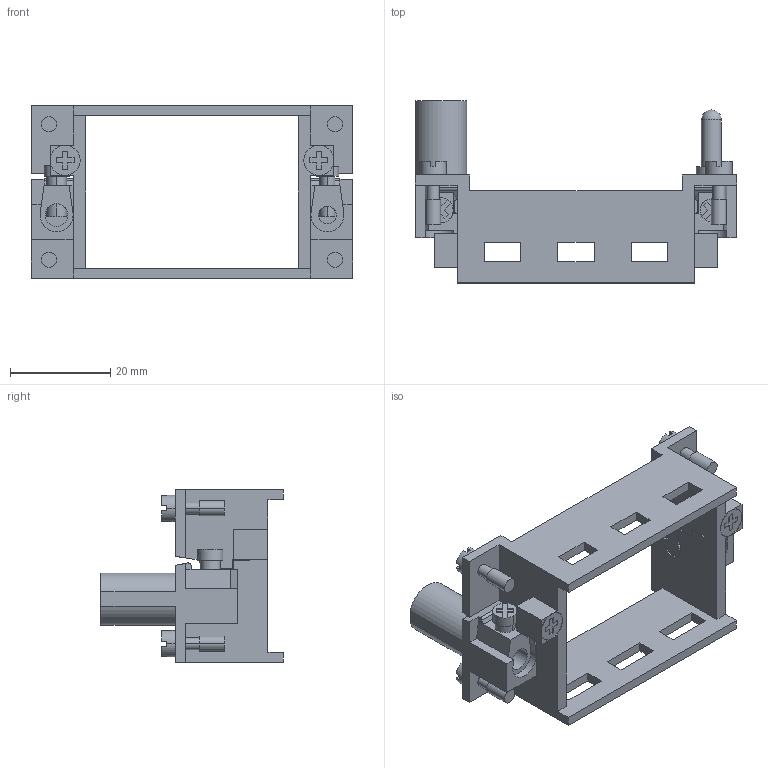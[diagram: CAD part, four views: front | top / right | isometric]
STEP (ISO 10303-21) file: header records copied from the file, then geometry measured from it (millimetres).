
FILE_DESCRIPTION (( 'STEP AP203' ), '1' );
FILE_NAME ('352292.STEP', '2026-03-10T06:25:11', ( '' ), ( '' ), 'SwSTEP 2.0', 'SolidWorks 2018', '' );
FILE_SCHEMA (( 'CONFIG_CONTROL_DESIGN' ));
Length unit declared in the file: millimetre
Products named in the file (1): 352292
Bounding box: 64 x 36.3 x 34.4 mm (x, y, z)
Volume: 10388.5 mm3; surface area: 10373.4 mm2
Topology: 1 solids, 1 shells, 333 faces, 910 edges, 603 vertices
Faces by surface type: plane 240, cylinder 91, sphere 2
Entity records: 10723 total; most frequent: CARTESIAN_POINT 2091, ORIENTED_EDGE 1812, DIRECTION 1730, EDGE_CURVE 906, VECTOR 682, LINE 682, VERTEX_POINT 601, AXIS2_PLACEMENT_3D 524
